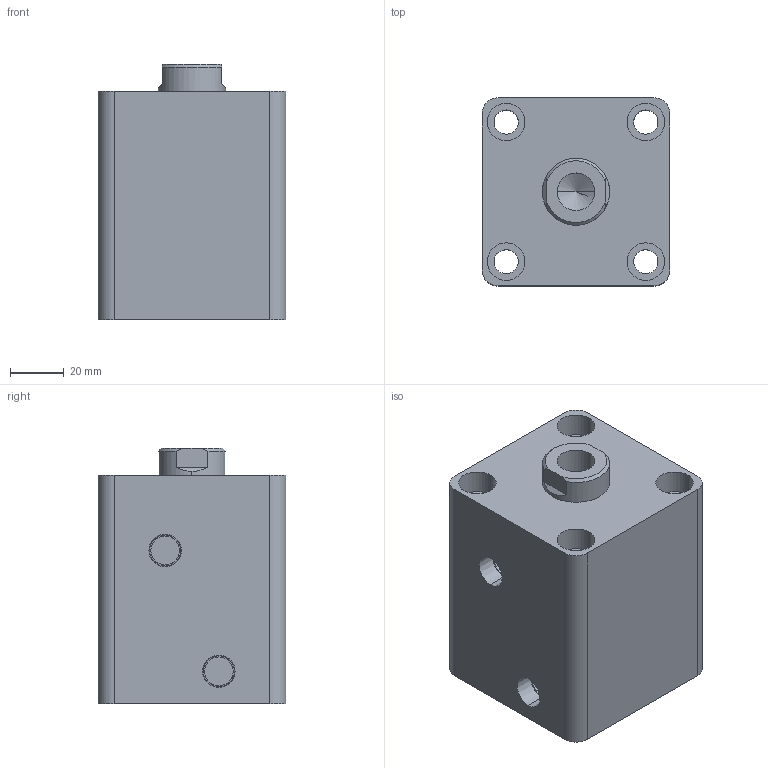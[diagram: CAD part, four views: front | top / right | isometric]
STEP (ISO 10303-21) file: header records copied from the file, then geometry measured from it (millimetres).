
FILE_DESCRIPTION (( 'STEP AP203' ), '1' );
FILE_NAME ('HTB-SD40-30N.STEP', '2019-10-07T06:49:50', ( '微软用户' ), ( '微软中国' ), 'SwSTEP 2.0', 'SolidWorks 2012', '' );
FILE_SCHEMA (( 'CONFIG_CONTROL_DESIGN' ));
Length unit declared in the file: millimetre
Products named in the file (3): HTB-SD40-30掛极; HTB-SD40-30N活塞杆; HTB-SD40-30N
Assembly tree (2 placements, depth 2):
  HTB-SD40-30N
    HTB-SD40-30掛极
    HTB-SD40-30N活塞杆
Bounding box: 70 x 70 x 95 mm (x, y, z)
Volume: 362225.1 mm3; surface area: 64090.3 mm2
Topology: 2 solids, 2 shells, 81 faces, 180 edges, 117 vertices
Faces by surface type: cylinder 42, plane 27, cone 8, torus 4
Entity records: 2603 total; most frequent: DIRECTION 444, CARTESIAN_POINT 409, ORIENTED_EDGE 356, AXIS2_PLACEMENT_3D 188, EDGE_CURVE 178, VERTEX_POINT 117, EDGE_LOOP 105, CIRCLE 102
